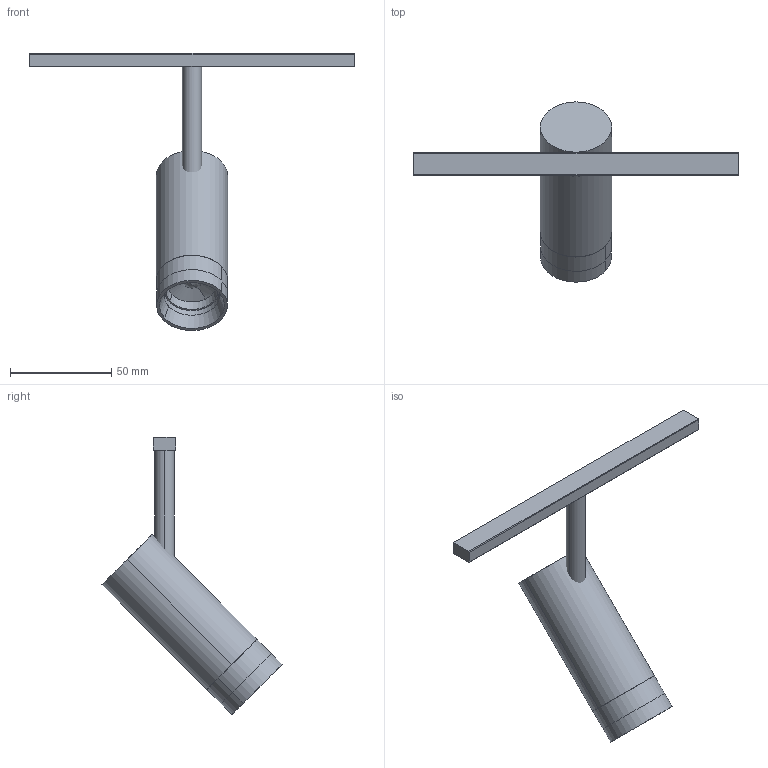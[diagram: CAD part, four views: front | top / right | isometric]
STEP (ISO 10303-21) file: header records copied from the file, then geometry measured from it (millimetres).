
FILE_DESCRIPTION(/* description */ (''),/* implementation_level */ '2;1');
FILE_NAME(/* name */ 'EIDOS ZOOM Ø35 - STREAM',/* time_stamp */ '2025-10-30T15:35:27+01:00',/* author */ (''),/* organization */ (''),/* preprocessor_version */ 'ST-DEVELOPER v19.2',/* originating_system */ 'Rhino 8.24',/* authorisation */ '');
FILE_SCHEMA (('CONFIG_CONTROL_DESIGN'));
Length unit declared in the file: millimetre
Products named in the file (1): EIDOS ZOOM Ø35 - STREAM
Bounding box: 160.11 x 88.76 x 136.64 mm (x, y, z)
Volume: 100563 mm3; surface area: 27024.8 mm2
Topology: 6 solids, 6 shells, 50 faces, 109 edges, 73 vertices
Faces by surface type: cylinder 22, plane 20, bspline 8
Entity records: 1874 total; most frequent: CARTESIAN_POINT 759, ORIENTED_EDGE 216, DIRECTION 156, EDGE_CURVE 108, AXIS2_PLACEMENT_3D 99, VERTEX_POINT 71, EDGE_LOOP 57, TRIMMED_CURVE 54
